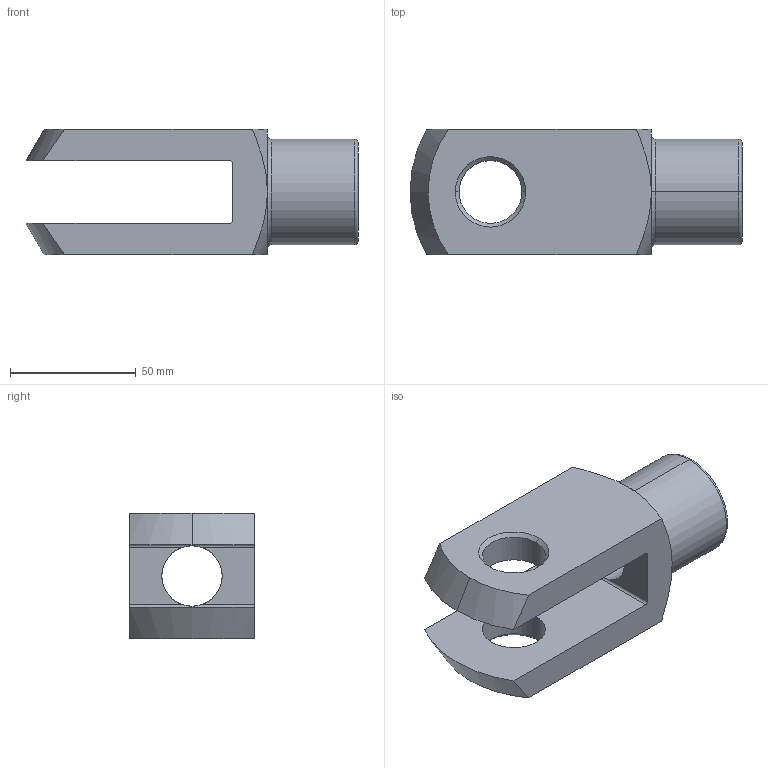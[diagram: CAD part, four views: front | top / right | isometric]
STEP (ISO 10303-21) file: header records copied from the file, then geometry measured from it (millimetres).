
FILE_DESCRIPTION (( 'STEP AP203' ), '1' );
FILE_NAME ('65635.W0256.step', '2014-01-17T13:08:30', ( 'User' ), ( '' ), 'SwSTEP 2.0', 'SolidWorks 2009', '' );
FILE_SCHEMA (( 'CONFIG_CONTROL_DESIGN' ));
Length unit declared in the file: millimetre
Products named in the file (1): 65635.W0256
Bounding box: 132 x 50 x 50 mm (x, y, z)
Volume: 143849.2 mm3; surface area: 33716.9 mm2
Topology: 1 solids, 1 shells, 37 faces, 91 edges, 56 vertices
Faces by surface type: cone 13, cylinder 10, plane 10, torus 4
Entity records: 1294 total; most frequent: CARTESIAN_POINT 325, DIRECTION 195, ORIENTED_EDGE 182, EDGE_CURVE 91, AXIS2_PLACEMENT_3D 82, VERTEX_POINT 56, CIRCLE 44, EDGE_LOOP 43
